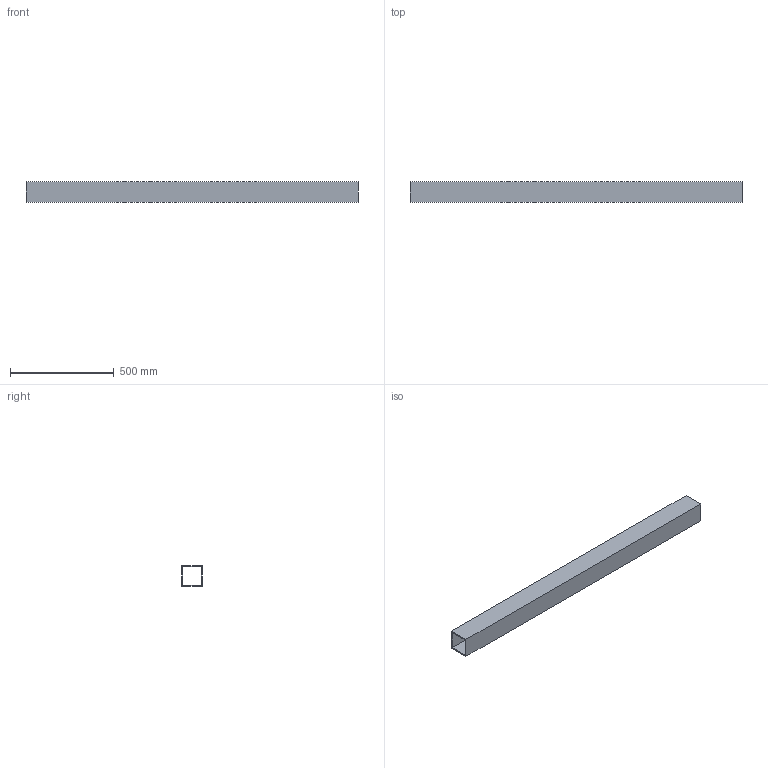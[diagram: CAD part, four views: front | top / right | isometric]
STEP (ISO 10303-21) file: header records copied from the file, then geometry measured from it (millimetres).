
FILE_DESCRIPTION(('Open CASCADE Model'),'2;1');
FILE_NAME('Open CASCADE Shape Model','2026-09-19T12:55:23',('Author'),( 'Open CASCADE'),'Open CASCADE STEP processor 7.9','Open CASCADE 7.9' ,'Unknown');
FILE_SCHEMA(('AUTOMOTIVE_DESIGN { 1 0 10303 214 1 1 1 1 }'));
Length unit declared in the file: millimetre
Products named in the file (1): Open CASCADE STEP translator 7.9 413
Bounding box: 1600 x 100 x 100 mm (x, y, z)
Volume: 3609600 mm3; surface area: 1207712 mm2
Topology: 1 solids, 1 shells, 10 faces, 24 edges, 16 vertices
Faces by surface type: plane 10
Entity records: 614 total; most frequent: CARTESIAN_POINT 99, DIRECTION 94, LINE 72, VECTOR 72, ORIENTED_EDGE 48, PCURVE 48, DEFINITIONAL_REPRESENTATION 48, EDGE_CURVE 24
